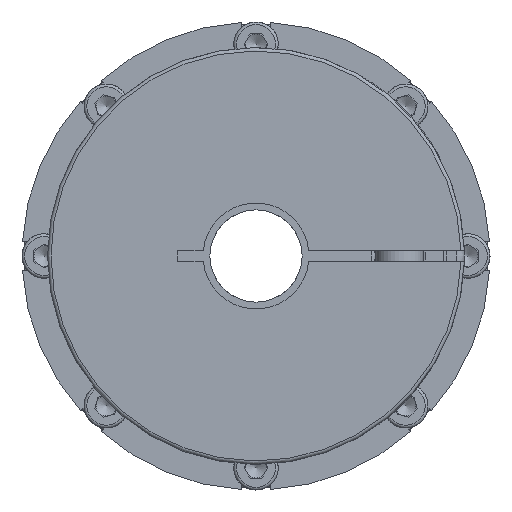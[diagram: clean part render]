
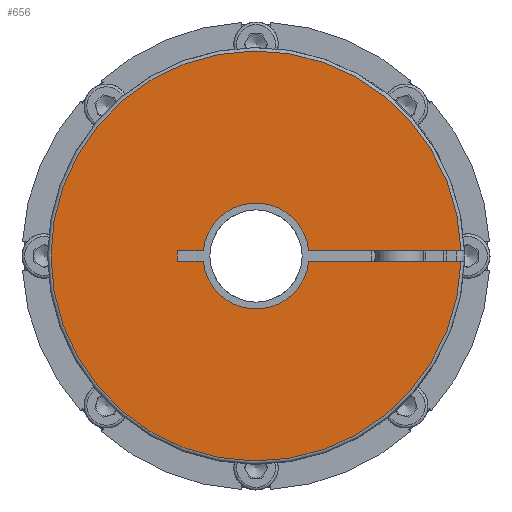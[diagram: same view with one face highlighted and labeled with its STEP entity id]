
A CAD part, left-side view. The second image highlights one B-rep face of the part: STEP entity #656.
In plain terms, the highlighted planar face has unit normal (-1, 0, 0).
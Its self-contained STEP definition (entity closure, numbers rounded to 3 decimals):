
#656 = ADVANCED_FACE( '', ( #1804 ), #1805, .T. );
#1804 = FACE_OUTER_BOUND( '', #3656, .T. );
#1805 = PLANE( '', #3657 );
#3656 = EDGE_LOOP( '', ( #5850, #5851, #5852, #5853, #5854, #5855, #5856, #5857 ) );
#3657 = AXIS2_PLACEMENT_3D( '', #5858, #5859, #5860 );
#5850 = ORIENTED_EDGE( '', *, *, #10200, .F. );
#5851 = ORIENTED_EDGE( '', *, *, #10201, .T. );
#5852 = ORIENTED_EDGE( '', *, *, #10202, .F. );
#5853 = ORIENTED_EDGE( '', *, *, #10203, .F. );
#5854 = ORIENTED_EDGE( '', *, *, #10204, .F. );
#5855 = ORIENTED_EDGE( '', *, *, #10205, .F. );
#5856 = ORIENTED_EDGE( '', *, *, #10206, .F. );
#5857 = ORIENTED_EDGE( '', *, *, #10207, .F. );
#5858 = CARTESIAN_POINT( '', ( -96.5, 15.5, 0. ) );
#5859 = DIRECTION( '', ( -1., 0., 0. ) );
#5860 = DIRECTION( '', ( 0., 1., 0. ) );
#10200 = EDGE_CURVE( '', #12157, #12158, #12159, .T. );
#10201 = EDGE_CURVE( '', #12157, #12160, #12161, .T. );
#10202 = EDGE_CURVE( '', #12162, #12160, #12163, .T. );
#10203 = EDGE_CURVE( '', #12164, #12162, #12165, .T. );
#10204 = EDGE_CURVE( '', #12166, #12164, #12167, .T. );
#10205 = EDGE_CURVE( '', #12168, #12166, #12169, .T. );
#10206 = EDGE_CURVE( '', #12170, #12168, #12171, .T. );
#10207 = EDGE_CURVE( '', #12158, #12170, #12172, .T. );
#12157 = VERTEX_POINT( '', #15384 );
#12158 = VERTEX_POINT( '', #15385 );
#12159 = LINE( '', #15386, #15387 );
#12160 = VERTEX_POINT( '', #15388 );
#12161 = CIRCLE( '', #15389, 60. );
#12162 = VERTEX_POINT( '', #15390 );
#12163 = LINE( '', #15391, #15392 );
#12164 = VERTEX_POINT( '', #15393 );
#12165 = CIRCLE( '', #15394, 15.5 );
#12166 = VERTEX_POINT( '', #15395 );
#12167 = LINE( '', #15396, #15397 );
#12168 = VERTEX_POINT( '', #15398 );
#12169 = LINE( '', #15399, #15400 );
#12170 = VERTEX_POINT( '', #15401 );
#12171 = LINE( '', #15402, #15403 );
#12172 = CIRCLE( '', #15404, 15.5 );
#15384 = CARTESIAN_POINT( '', ( -96.5, -59.981, 1.5 ) );
#15385 = CARTESIAN_POINT( '', ( -96.5, -15.427, 1.5 ) );
#15386 = CARTESIAN_POINT( '', ( -96.5, 23., 1.5 ) );
#15387 = VECTOR( '', #20405, 1000. );
#15388 = CARTESIAN_POINT( '', ( -96.5, -59.981, -1.5 ) );
#15389 = AXIS2_PLACEMENT_3D( '', #20406, #20407, #20408 );
#15390 = CARTESIAN_POINT( '', ( -96.5, -15.427, -1.5 ) );
#15391 = CARTESIAN_POINT( '', ( -96.5, 23., -1.5 ) );
#15392 = VECTOR( '', #20409, 1000. );
#15393 = CARTESIAN_POINT( '', ( -96.5, 15.427, -1.5 ) );
#15394 = AXIS2_PLACEMENT_3D( '', #20410, #20411, #20412 );
#15395 = CARTESIAN_POINT( '', ( -96.5, 23., -1.5 ) );
#15396 = CARTESIAN_POINT( '', ( -96.5, 23., -1.5 ) );
#15397 = VECTOR( '', #20413, 1000. );
#15398 = CARTESIAN_POINT( '', ( -96.5, 23., 1.5 ) );
#15399 = CARTESIAN_POINT( '', ( -96.5, 23., -1.5 ) );
#15400 = VECTOR( '', #20414, 1000. );
#15401 = CARTESIAN_POINT( '', ( -96.5, 15.427, 1.5 ) );
#15402 = CARTESIAN_POINT( '', ( -96.5, 23., 1.5 ) );
#15403 = VECTOR( '', #20415, 1000. );
#15404 = AXIS2_PLACEMENT_3D( '', #20416, #20417, #20418 );
#20405 = DIRECTION( '', ( 0., 1., 0. ) );
#20406 = CARTESIAN_POINT( '', ( -96.5, 0., 0. ) );
#20407 = DIRECTION( '', ( -1., 0., 0. ) );
#20408 = DIRECTION( '', ( 0., 1., 0. ) );
#20409 = DIRECTION( '', ( 0., -1., 0. ) );
#20410 = CARTESIAN_POINT( '', ( -96.5, 0., 0. ) );
#20411 = DIRECTION( '', ( -1., 0., 0. ) );
#20412 = DIRECTION( '', ( 0., 1., 0. ) );
#20413 = DIRECTION( '', ( 0., -1., 0. ) );
#20414 = DIRECTION( '', ( 0., 0., -1. ) );
#20415 = DIRECTION( '', ( 0., 1., 0. ) );
#20416 = CARTESIAN_POINT( '', ( -96.5, 0., 0. ) );
#20417 = DIRECTION( '', ( -1., 0., 0. ) );
#20418 = DIRECTION( '', ( 0., 1., 0. ) );
